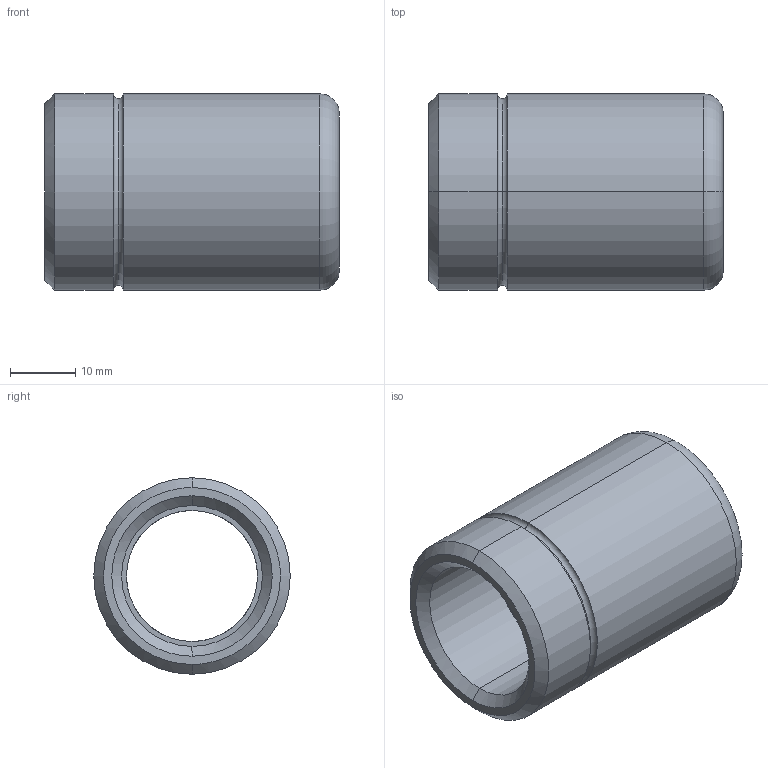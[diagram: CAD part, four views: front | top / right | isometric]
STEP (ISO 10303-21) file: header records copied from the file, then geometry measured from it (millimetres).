
FILE_DESCRIPTION(('CATIA V5 STEP Exchange'),'2;1');
FILE_NAME('C:\Users\Utente\Desktop\IO LAVORO\3D X SITO CF\X SITO\3D files 347\347-20 x 45.stp','2021-01-01T10:02:49+00:00',('none'),('none'),'CATIA Version 5 Release 20 GA (IN-10)','CATIA V5 STEP AP203','none');
FILE_SCHEMA(('CONFIG_CONTROL_DESIGN'));
Length unit declared in the file: millimetre
Products named in the file (1): 347-20 x 45
Bounding box: 45 x 30 x 30 mm (x, y, z)
Volume: 16201.8 mm3; surface area: 7844.8 mm2
Topology: 1 solids, 1 shells, 29 faces, 86 edges, 60 vertices
Faces by surface type: torus 12, cylinder 10, cone 4, plane 3
Entity records: 1154 total; most frequent: CARTESIAN_POINT 344, ORIENTED_EDGE 172, DIRECTION 132, AXIS2_PLACEMENT_3D 90, EDGE_CURVE 86, CIRCLE 60, VERTEX_POINT 60, EDGE_LOOP 32
